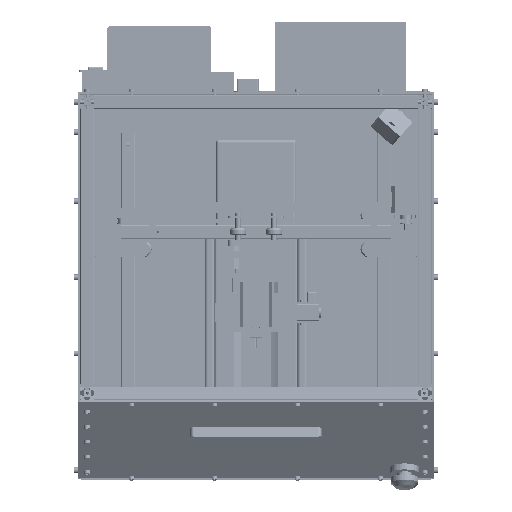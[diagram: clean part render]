
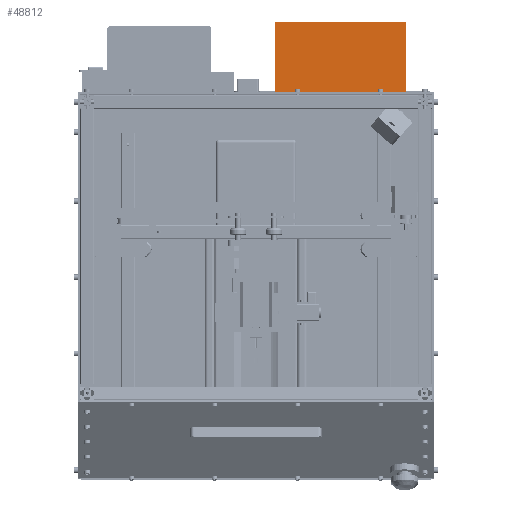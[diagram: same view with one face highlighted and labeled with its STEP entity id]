
A CAD part, top view. The second image highlights one B-rep face of the part: STEP entity #48812.
In plain terms, the highlighted planar face has unit normal (0, 0, 1).
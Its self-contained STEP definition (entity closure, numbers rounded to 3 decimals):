
#48623 = VERTEX_POINT('',#48624);
#48624 = CARTESIAN_POINT('',(28.,258.,266.));
#48631 = PLANE('',#48632);
#48632 = AXIS2_PLACEMENT_3D('',#48633,#48634,#48635);
#48633 = CARTESIAN_POINT('',(28.,258.,263.));
#48634 = DIRECTION('',(1.,0.,0.));
#48635 = DIRECTION('',(0.,0.,1.));
#48643 = PLANE('',#48644);
#48644 = AXIS2_PLACEMENT_3D('',#48645,#48646,#48647);
#48645 = CARTESIAN_POINT('',(28.,258.,263.));
#48646 = DIRECTION('',(0.,1.,0.));
#48647 = DIRECTION('',(0.,0.,1.));
#48684 = VERTEX_POINT('',#48685);
#48685 = CARTESIAN_POINT('',(28.,360.,266.));
#48699 = PLANE('',#48700);
#48700 = AXIS2_PLACEMENT_3D('',#48701,#48702,#48703);
#48701 = CARTESIAN_POINT('',(28.,360.,263.));
#48702 = DIRECTION('',(0.,1.,0.));
#48703 = DIRECTION('',(0.,0.,1.));
#48711 = EDGE_CURVE('',#48623,#48684,#48712,.T.);
#48712 = SURFACE_CURVE('',#48713,(#48717,#48724),.PCURVE_S1.);
#48713 = LINE('',#48714,#48715);
#48714 = CARTESIAN_POINT('',(28.,258.,266.));
#48715 = VECTOR('',#48716,1.);
#48716 = DIRECTION('',(0.,1.,0.));
#48717 = PCURVE('',#48631,#48718);
#48718 = DEFINITIONAL_REPRESENTATION('',(#48719),#48723);
#48719 = LINE('',#48720,#48721);
#48720 = CARTESIAN_POINT('',(3.,0.));
#48721 = VECTOR('',#48722,1.);
#48722 = DIRECTION('',(0.,-1.));
#48723 = ( GEOMETRIC_REPRESENTATION_CONTEXT(2) 
PARAMETRIC_REPRESENTATION_CONTEXT() REPRESENTATION_CONTEXT('2D SPACE',''
  ) );
#48724 = PCURVE('',#48725,#48730);
#48725 = PLANE('',#48726);
#48726 = AXIS2_PLACEMENT_3D('',#48727,#48728,#48729);
#48727 = CARTESIAN_POINT('',(28.,258.,266.));
#48728 = DIRECTION('',(0.,0.,1.));
#48729 = DIRECTION('',(1.,0.,0.));
#48730 = DEFINITIONAL_REPRESENTATION('',(#48731),#48735);
#48731 = LINE('',#48732,#48733);
#48732 = CARTESIAN_POINT('',(0.,0.));
#48733 = VECTOR('',#48734,1.);
#48734 = DIRECTION('',(0.,1.));
#48735 = ( GEOMETRIC_REPRESENTATION_CONTEXT(2) 
PARAMETRIC_REPRESENTATION_CONTEXT() REPRESENTATION_CONTEXT('2D SPACE',''
  ) );
#48764 = EDGE_CURVE('',#48623,#48765,#48767,.T.);
#48765 = VERTEX_POINT('',#48766);
#48766 = CARTESIAN_POINT('',(217.,258.,266.));
#48767 = SURFACE_CURVE('',#48768,(#48772,#48779),.PCURVE_S1.);
#48768 = LINE('',#48769,#48770);
#48769 = CARTESIAN_POINT('',(28.,258.,266.));
#48770 = VECTOR('',#48771,1.);
#48771 = DIRECTION('',(1.,0.,0.));
#48772 = PCURVE('',#48643,#48773);
#48773 = DEFINITIONAL_REPRESENTATION('',(#48774),#48778);
#48774 = LINE('',#48775,#48776);
#48775 = CARTESIAN_POINT('',(3.,0.));
#48776 = VECTOR('',#48777,1.);
#48777 = DIRECTION('',(0.,1.));
#48778 = ( GEOMETRIC_REPRESENTATION_CONTEXT(2) 
PARAMETRIC_REPRESENTATION_CONTEXT() REPRESENTATION_CONTEXT('2D SPACE',''
  ) );
#48779 = PCURVE('',#48725,#48780);
#48780 = DEFINITIONAL_REPRESENTATION('',(#48781),#48785);
#48781 = LINE('',#48782,#48783);
#48782 = CARTESIAN_POINT('',(0.,0.));
#48783 = VECTOR('',#48784,1.);
#48784 = DIRECTION('',(1.,0.));
#48785 = ( GEOMETRIC_REPRESENTATION_CONTEXT(2) 
PARAMETRIC_REPRESENTATION_CONTEXT() REPRESENTATION_CONTEXT('2D SPACE',''
  ) );
#48801 = PLANE('',#48802);
#48802 = AXIS2_PLACEMENT_3D('',#48803,#48804,#48805);
#48803 = CARTESIAN_POINT('',(217.,258.,263.));
#48804 = DIRECTION('',(1.,0.,0.));
#48805 = DIRECTION('',(0.,0.,1.));
#48812 = ADVANCED_FACE('',(#48813),#48725,.T.);
#48813 = FACE_BOUND('',#48814,.T.);
#48814 = EDGE_LOOP('',(#48815,#48816,#48817,#48840));
#48815 = ORIENTED_EDGE('',*,*,#48711,.F.);
#48816 = ORIENTED_EDGE('',*,*,#48764,.T.);
#48817 = ORIENTED_EDGE('',*,*,#48818,.T.);
#48818 = EDGE_CURVE('',#48765,#48819,#48821,.T.);
#48819 = VERTEX_POINT('',#48820);
#48820 = CARTESIAN_POINT('',(217.,360.,266.));
#48821 = SURFACE_CURVE('',#48822,(#48826,#48833),.PCURVE_S1.);
#48822 = LINE('',#48823,#48824);
#48823 = CARTESIAN_POINT('',(217.,258.,266.));
#48824 = VECTOR('',#48825,1.);
#48825 = DIRECTION('',(0.,1.,0.));
#48826 = PCURVE('',#48725,#48827);
#48827 = DEFINITIONAL_REPRESENTATION('',(#48828),#48832);
#48828 = LINE('',#48829,#48830);
#48829 = CARTESIAN_POINT('',(189.,0.));
#48830 = VECTOR('',#48831,1.);
#48831 = DIRECTION('',(0.,1.));
#48832 = ( GEOMETRIC_REPRESENTATION_CONTEXT(2) 
PARAMETRIC_REPRESENTATION_CONTEXT() REPRESENTATION_CONTEXT('2D SPACE',''
  ) );
#48833 = PCURVE('',#48801,#48834);
#48834 = DEFINITIONAL_REPRESENTATION('',(#48835),#48839);
#48835 = LINE('',#48836,#48837);
#48836 = CARTESIAN_POINT('',(3.,0.));
#48837 = VECTOR('',#48838,1.);
#48838 = DIRECTION('',(0.,-1.));
#48839 = ( GEOMETRIC_REPRESENTATION_CONTEXT(2) 
PARAMETRIC_REPRESENTATION_CONTEXT() REPRESENTATION_CONTEXT('2D SPACE',''
  ) );
#48840 = ORIENTED_EDGE('',*,*,#48841,.F.);
#48841 = EDGE_CURVE('',#48684,#48819,#48842,.T.);
#48842 = SURFACE_CURVE('',#48843,(#48847,#48854),.PCURVE_S1.);
#48843 = LINE('',#48844,#48845);
#48844 = CARTESIAN_POINT('',(28.,360.,266.));
#48845 = VECTOR('',#48846,1.);
#48846 = DIRECTION('',(1.,0.,0.));
#48847 = PCURVE('',#48725,#48848);
#48848 = DEFINITIONAL_REPRESENTATION('',(#48849),#48853);
#48849 = LINE('',#48850,#48851);
#48850 = CARTESIAN_POINT('',(0.,102.));
#48851 = VECTOR('',#48852,1.);
#48852 = DIRECTION('',(1.,0.));
#48853 = ( GEOMETRIC_REPRESENTATION_CONTEXT(2) 
PARAMETRIC_REPRESENTATION_CONTEXT() REPRESENTATION_CONTEXT('2D SPACE',''
  ) );
#48854 = PCURVE('',#48699,#48855);
#48855 = DEFINITIONAL_REPRESENTATION('',(#48856),#48860);
#48856 = LINE('',#48857,#48858);
#48857 = CARTESIAN_POINT('',(3.,0.));
#48858 = VECTOR('',#48859,1.);
#48859 = DIRECTION('',(0.,1.));
#48860 = ( GEOMETRIC_REPRESENTATION_CONTEXT(2) 
PARAMETRIC_REPRESENTATION_CONTEXT() REPRESENTATION_CONTEXT('2D SPACE',''
  ) );
